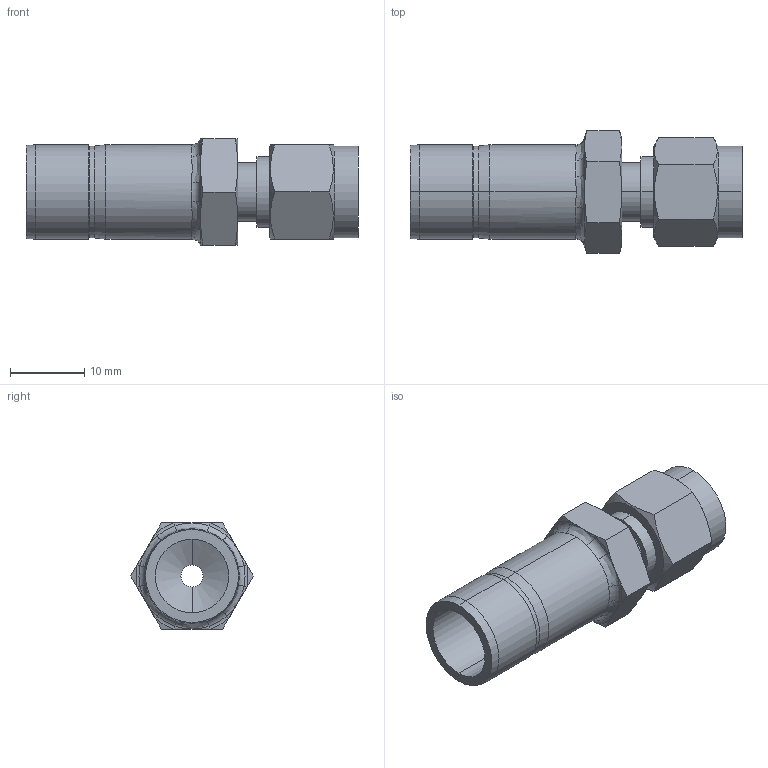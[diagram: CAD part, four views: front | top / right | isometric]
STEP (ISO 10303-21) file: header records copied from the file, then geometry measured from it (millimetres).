
FILE_DESCRIPTION (( 'STEP AP203' ), '1' );
FILE_NAME ('DRE03-08 SS.STEP', '2009-09-08T08:37:19', ( ' ' ), ( '' ), 'SwSTEP 2.0', 'SolidWorks 2008', '' );
FILE_SCHEMA (( 'CONFIG_CONTROL_DESIGN' ));
Length unit declared in the file: millimetre
Products named in the file (1): DRE03-08 SS
Bounding box: 44.7 x 16.5 x 14.29 mm (x, y, z)
Volume: 3502.5 mm3; surface area: 3311.9 mm2
Topology: 1 solids, 1 shells, 78 faces, 176 edges, 104 vertices
Faces by surface type: cone 24, plane 24, cylinder 18, bspline 6, torus 6
Entity records: 2589 total; most frequent: CARTESIAN_POINT 833, ORIENTED_EDGE 352, DIRECTION 348, EDGE_CURVE 176, AXIS2_PLACEMENT_3D 147, VERTEX_POINT 104, EDGE_LOOP 84, FACE_OUTER_BOUND 78
